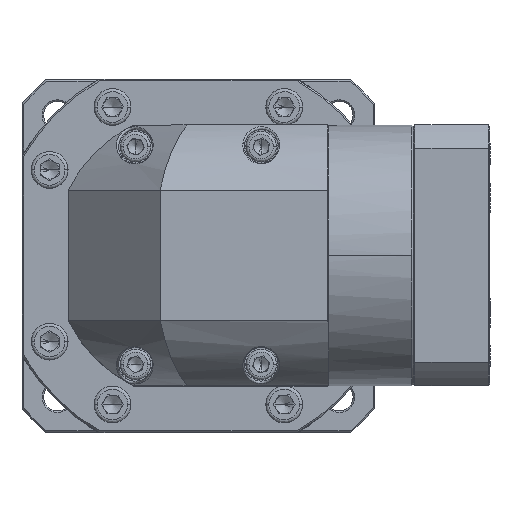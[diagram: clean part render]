
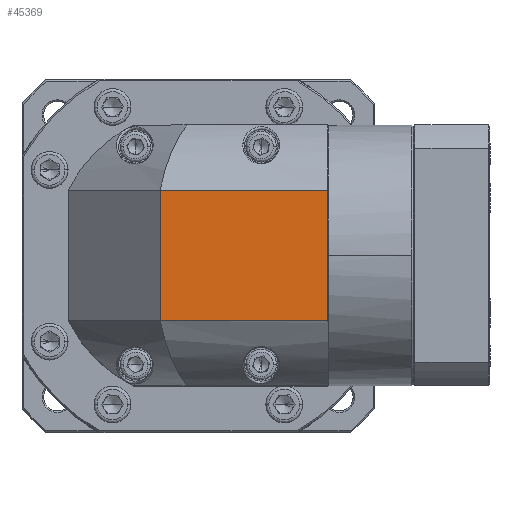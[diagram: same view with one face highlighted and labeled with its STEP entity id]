
A CAD part, top view. The second image highlights one B-rep face of the part: STEP entity #45369.
In plain terms, the highlighted planar face has unit normal (0, 0, 1).
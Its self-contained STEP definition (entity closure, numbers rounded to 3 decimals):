
#332 = VERTEX_POINT ( 'NONE', #147392 ) ;
#2598 = VERTEX_POINT ( 'NONE', #97342 ) ;
#6472 = VERTEX_POINT ( 'NONE', #113623 ) ;
#7003 = LINE ( 'NONE', #41570, #94367 ) ;
#10417 = VERTEX_POINT ( 'NONE', #125423 ) ;
#12045 = LINE ( 'NONE', #73724, #142137 ) ;
#17876 = AXIS2_PLACEMENT_3D ( 'NONE', #106364, #128298, #26222 ) ;
#26222 = DIRECTION ( 'NONE',  ( 1., 0., 0. ) ) ;
#32217 = DIRECTION ( 'NONE',  ( 0., 1., 0. ) ) ;
#41570 = CARTESIAN_POINT ( 'NONE',  ( -17.889, 52.573, 31.809 ) ) ;
#45369 = ADVANCED_FACE ( 'NONE', ( #78083 ), #129293, .T. ) ;
#48061 = EDGE_CURVE ( 'NONE', #10417, #332, #94950, .T. ) ;
#68703 = ORIENTED_EDGE ( 'NONE', *, *, #104490, .F. ) ;
#73724 = CARTESIAN_POINT ( 'NONE',  ( 82.111, 73.786, 31.809 ) ) ;
#75284 = ORIENTED_EDGE ( 'NONE', *, *, #111340, .F. ) ;
#78083 = FACE_OUTER_BOUND ( 'NONE', #106642, .T. ) ;
#78679 = DIRECTION ( 'NONE',  ( 1., 0., 0. ) ) ;
#80333 = EDGE_CURVE ( 'NONE', #6472, #332, #12045, .T. ) ;
#82300 = VECTOR ( 'NONE', #78679, 1000. ) ;
#84215 = DIRECTION ( 'NONE',  ( 0., 1., 0. ) ) ;
#90325 = LINE ( 'NONE', #100954, #124206 ) ;
#94367 = VECTOR ( 'NONE', #132827, 1000. ) ;
#94950 = LINE ( 'NONE', #103123, #82300 ) ;
#97342 = CARTESIAN_POINT ( 'NONE',  ( 27.611, 52.573, 31.809 ) ) ;
#100954 = CARTESIAN_POINT ( 'NONE',  ( 27.611, 73.786, 31.809 ) ) ;
#103123 = CARTESIAN_POINT ( 'NONE',  ( -17.889, 95., 31.809 ) ) ;
#104490 = EDGE_CURVE ( 'NONE', #2598, #10417, #90325, .T. ) ;
#106364 = CARTESIAN_POINT ( 'NONE',  ( 40.111, 73.786, 31.809 ) ) ;
#106642 = EDGE_LOOP ( 'NONE', ( #108742, #68703, #75284, #139692 ) ) ;
#108742 = ORIENTED_EDGE ( 'NONE', *, *, #48061, .F. ) ;
#111340 = EDGE_CURVE ( 'NONE', #6472, #2598, #7003, .T. ) ;
#113623 = CARTESIAN_POINT ( 'NONE',  ( 82.111, 52.573, 31.809 ) ) ;
#124206 = VECTOR ( 'NONE', #32217, 1000. ) ;
#125423 = CARTESIAN_POINT ( 'NONE',  ( 27.611, 95., 31.809 ) ) ;
#128298 = DIRECTION ( 'NONE',  ( 0., 0., 1. ) ) ;
#129293 = PLANE ( 'NONE',  #17876 ) ;
#132827 = DIRECTION ( 'NONE',  ( -1., 0., 0. ) ) ;
#139692 = ORIENTED_EDGE ( 'NONE', *, *, #80333, .T. ) ;
#142137 = VECTOR ( 'NONE', #84215, 1000. ) ;
#147392 = CARTESIAN_POINT ( 'NONE',  ( 82.111, 95., 31.809 ) ) ;
